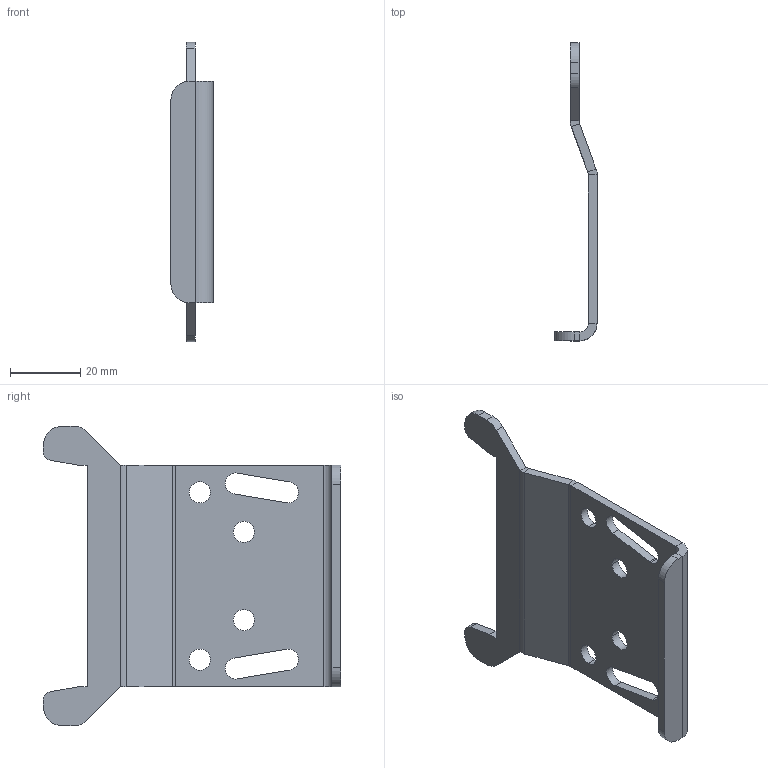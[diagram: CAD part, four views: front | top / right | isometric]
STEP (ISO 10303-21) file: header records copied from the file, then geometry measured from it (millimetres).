
FILE_DESCRIPTION (( 'STEP AP214' ), '1' );
FILE_NAME ('IK 01 00.002 赶鎀鍧.STEP', '2016-08-01T12:16:26', ( '' ), ( '' ), 'SwSTEP 2.0', 'SolidWorks 2012', '' );
FILE_SCHEMA (( 'AUTOMOTIVE_DESIGN' ));
Length unit declared in the file: millimetre
Products named in the file (1): IK 01 00.002 赶鎀鍧
Bounding box: 12 x 84.5 x 85 mm (x, y, z)
Volume: 12652.5 mm3; surface area: 11440.2 mm2
Topology: 1 solids, 1 shells, 63 faces, 159 edges, 98 vertices
Faces by surface type: plane 36, cylinder 27
Entity records: 1933 total; most frequent: DIRECTION 341, CARTESIAN_POINT 321, ORIENTED_EDGE 318, EDGE_CURVE 159, AXIS2_PLACEMENT_3D 118, VECTOR 105, LINE 105, VERTEX_POINT 98
